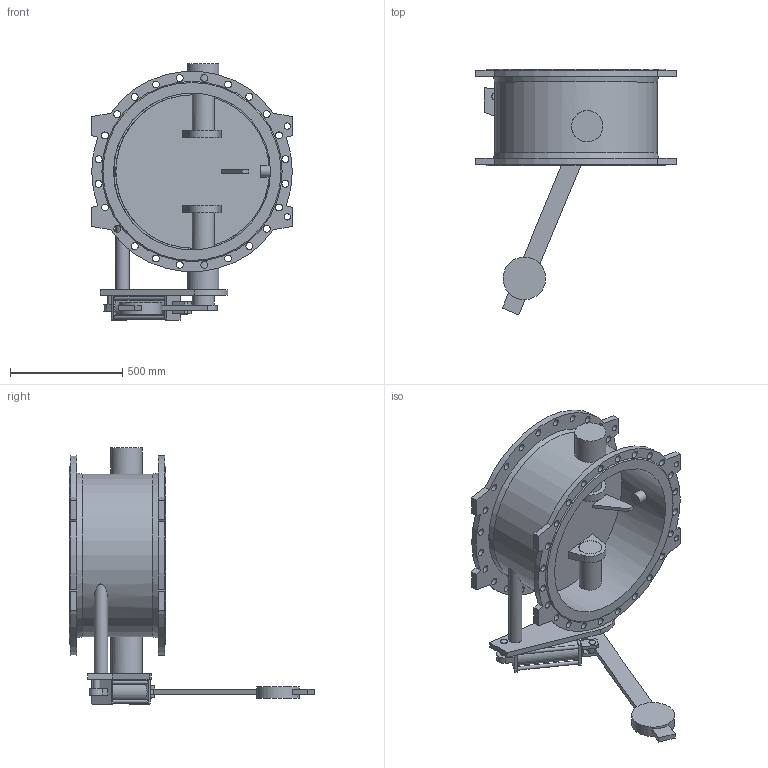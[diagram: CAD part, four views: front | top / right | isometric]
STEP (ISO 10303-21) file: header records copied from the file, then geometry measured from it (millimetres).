
FILE_DESCRIPTION(('STEP AP203'), '1');
FILE_NAME('Êëàïàí 015F.PV DN700 PN10 ñ ïðîòèâîâåñîì ñ äåìïôåðîì', '', ('UNSPECIFIED'), ('UNSPECIFIED'), 'ASCON STEP Converter 1.6', 'ASCON Math Kernel', '');
FILE_SCHEMA(('CONFIG_CONTROL_DESIGN'));
Length unit declared in the file: millimetre
Bounding box: 895 x 1095 x 1143 mm (x, y, z)
Volume: 47222394.1 mm3; surface area: 4899598.1 mm2
Topology: 1 solids, 1 shells, 215 faces, 553 edges, 366 vertices
Faces by surface type: cylinder 106, plane 100, cone 4, extrusion 2, torus 2, bspline 1
Full cylindrical faces by diameter (mm): 16 x5, 20 x2, 28 x4, 30 x7, 31 x48, 35 x1, 50 x1, 60 x1, 90 x1, 100 x3, 102 x2, 140 x2, 190 x1, 700 x1, 726 x1
Entity records: 10349 total; most frequent: CARTESIAN_POINT 3312, DIRECTION 1074, ORIENTED_EDGE 914, EDGE_LOOP 462, EDGE_CURVE 457, AXIS2_PLACEMENT_3D 429, VERTEX_POINT 365, FACE_BOUND 291
